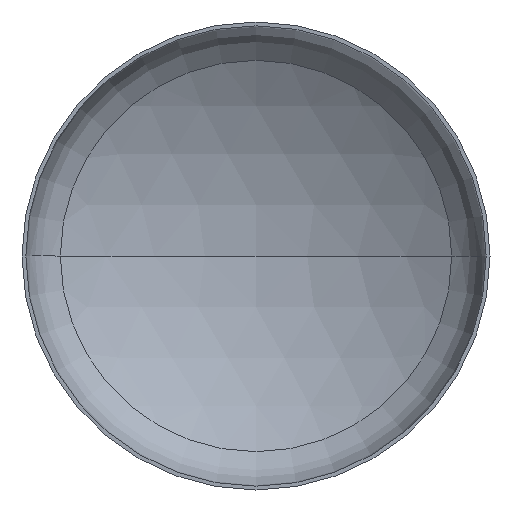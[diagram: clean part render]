
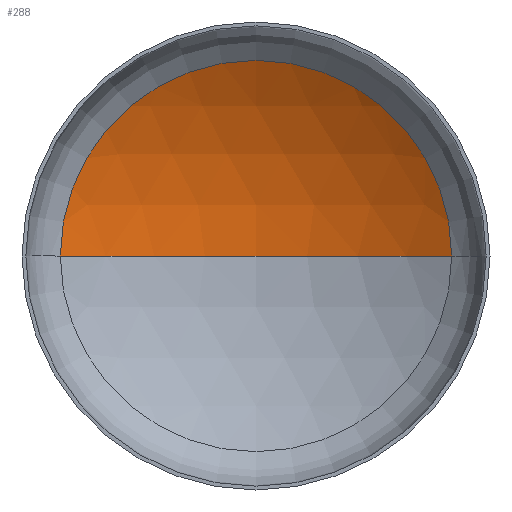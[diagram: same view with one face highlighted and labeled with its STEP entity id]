
A CAD part, front view. The second image highlights one B-rep face of the part: STEP entity #288.
In plain terms, the highlighted spherical face has radius 1760 mm.
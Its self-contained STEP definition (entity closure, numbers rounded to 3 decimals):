
#6 = DIRECTION ( 'NONE',  ( 1., 0., 0. ) ) ;
#10 = AXIS2_PLACEMENT_3D ( 'NONE', #129, #96, #6 ) ;
#23 = AXIS2_PLACEMENT_3D ( 'NONE', #197, #198, #258 ) ;
#83 = DIRECTION ( 'NONE',  ( 0., 0., -1. ) ) ;
#93 = SPHERICAL_SURFACE ( 'NONE', #23, 1760. ) ;
#96 = DIRECTION ( 'NONE',  ( 0., 0., 1. ) ) ;
#98 = EDGE_LOOP ( 'NONE', ( #340, #275, #310 ) ) ;
#103 = CARTESIAN_POINT ( 'NONE',  ( 0., 604.283, 0. ) ) ;
#114 = CARTESIAN_POINT ( 'NONE',  ( 919.662, 344.89, 0. ) ) ;
#119 = CARTESIAN_POINT ( 'NONE',  ( 0., -1155.717, 0. ) ) ;
#129 = CARTESIAN_POINT ( 'NONE',  ( 0., -1155.717, 0. ) ) ;
#145 = CIRCLE ( 'NONE', #325, 1760. ) ;
#197 = CARTESIAN_POINT ( 'NONE',  ( 0., -1155.717, 0. ) ) ;
#198 = DIRECTION ( 'NONE',  ( 0., 0., -1. ) ) ;
#222 = CIRCLE ( 'NONE', #368, 919.662 ) ;
#223 = VERTEX_POINT ( 'NONE', #114 ) ;
#225 = CARTESIAN_POINT ( 'NONE',  ( 0., 344.89, 0. ) ) ;
#250 = FACE_OUTER_BOUND ( 'NONE', #98, .T. ) ;
#255 = DIRECTION ( 'NONE',  ( 1., 0., 0. ) ) ;
#258 = DIRECTION ( 'NONE',  ( -1., 0., 0. ) ) ;
#275 = ORIENTED_EDGE ( 'NONE', *, *, #360, .T. ) ;
#288 = ADVANCED_FACE ( 'NONE', ( #250 ), #93, .F. ) ;
#300 = CIRCLE ( 'NONE', #10, 1760. ) ;
#310 = ORIENTED_EDGE ( 'NONE', *, *, #362, .T. ) ;
#325 = AXIS2_PLACEMENT_3D ( 'NONE', #119, #83, #361 ) ;
#340 = ORIENTED_EDGE ( 'NONE', *, *, #342, .F. ) ;
#342 = EDGE_CURVE ( 'NONE', #345, #410, #300, .T. ) ;
#345 = VERTEX_POINT ( 'NONE', #103 ) ;
#360 = EDGE_CURVE ( 'NONE', #345, #223, #145, .T. ) ;
#361 = DIRECTION ( 'NONE',  ( -1., 0., 0. ) ) ;
#362 = EDGE_CURVE ( 'NONE', #223, #410, #222, .T. ) ;
#368 = AXIS2_PLACEMENT_3D ( 'NONE', #225, #406, #255 ) ;
#387 = CARTESIAN_POINT ( 'NONE',  ( -919.662, 344.89, 0. ) ) ;
#406 = DIRECTION ( 'NONE',  ( 0., -1., 0. ) ) ;
#410 = VERTEX_POINT ( 'NONE', #387 ) ;
